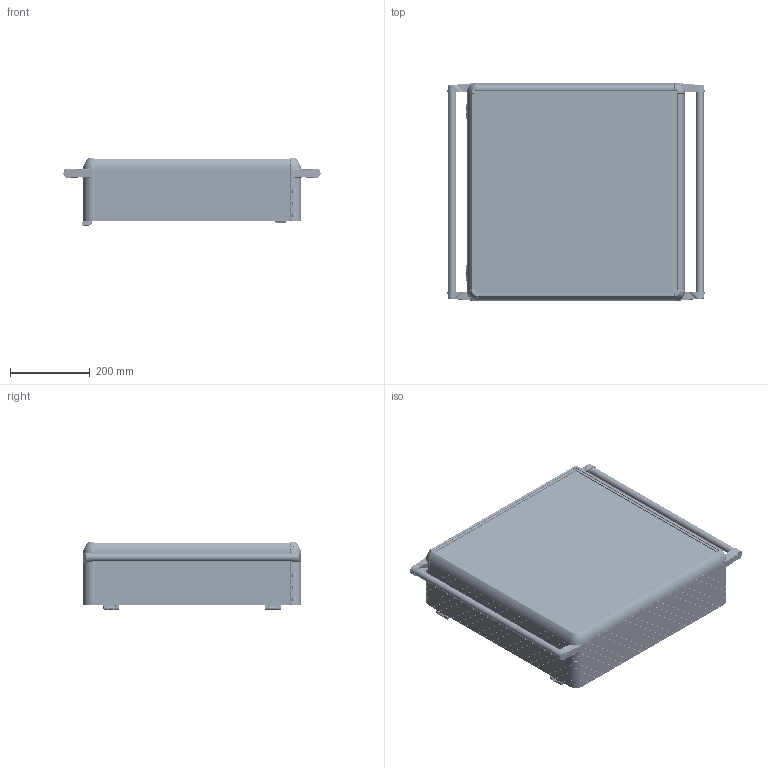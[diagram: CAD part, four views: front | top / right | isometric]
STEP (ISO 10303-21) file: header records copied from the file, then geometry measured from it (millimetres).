
FILE_DESCRIPTION (( 'STEP AP214' ), '1' );
FILE_NAME ('1500-0212.STEP', '2022-09-01T09:00:17', ( '' ), ( '' ), 'SwSTEP 2.0', 'SolidWorks 2022', '' );
FILE_SCHEMA (( 'AUTOMOTIVE_DESIGN' ));
Length unit declared in the file: millimetre
Products named in the file (7): HPECO-150-001_495; ECO1500-0100(SAÐ); 1500-0212; 500X500; ARKA_KAPAK_500X500; ECO1500-0100(SOL); boru_525
Assembly tree (12 placements, depth 2):
  1500-0212
    500X500
    ARKA_KAPAK_500X500
    HPECO-150-001_495  x4
    boru_525  x2
    ECO1500-0100(SOL)  x2
    ECO1500-0100(SAÐ)  x2
Bounding box: 644.62 x 547 x 169.15 mm (x, y, z)
Volume: 3308013 mm3; surface area: 2903363 mm2
Topology: 48 solids, 98 shells, 11397 faces, 29616 edges, 17990 vertices
Faces by surface type: plane 3701, cylinder 3188, bspline 3052, cone 798, torus 524, sphere 134
Entity records: 307428 total; most frequent: CARTESIAN_POINT 91894, ORIENTED_EDGE 34034, DIRECTION 27227, EDGE_CURVE 17017, VERTEX_POINT 10394, AXIS2_PLACEMENT_3D 10123, VECTOR 6981, LINE 6981
